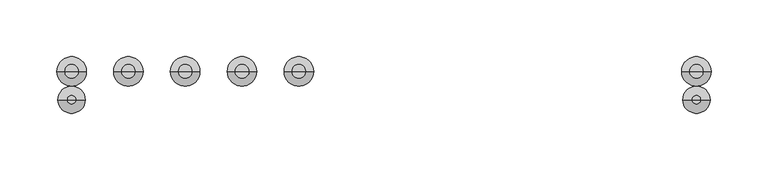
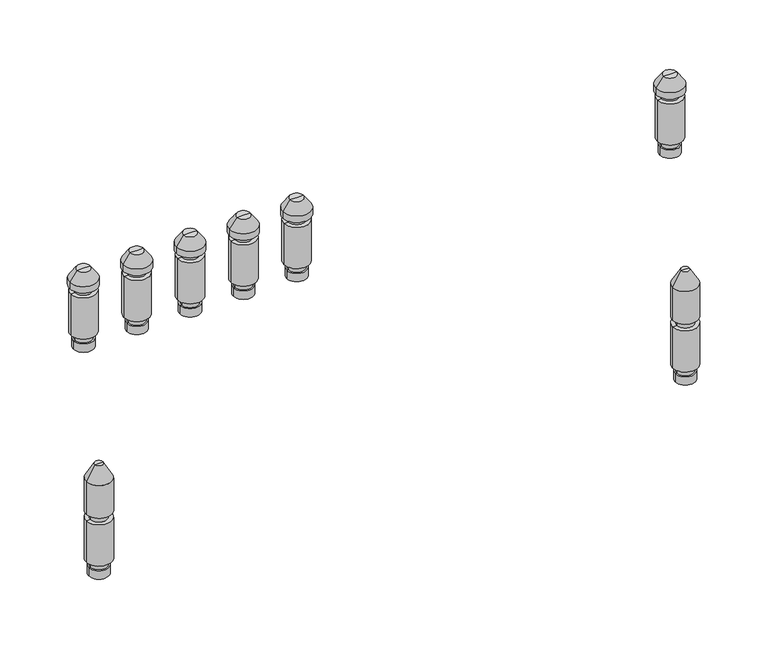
"""IFC4 building model written with IfcOpenShell, lengths in millimetres: valve geometry, PL CZ_Manifold_FT-VA : 13 circuits."""

from ifc_helpers import new_model, si_unit, frame, origin, place, context, project, spatial, polyline, circle_curve, source, transform, mapped, element, save
from ifc_brep_helpers import plane_surface, cylinder_surface, revolved_surface, advanced_brep


def valve_afcc5f03(model_context):
    return source(origin(), model_context, "Body", "AdvancedBrep", [
        advanced_brep(
        [(278.5, 25.0, 174.88733), (297.5, 25.0, 174.88733), (288.0, 25.0, 174.88733), (278.5, 25.0, 182.9630354), (297.5, 25.0, 182.9630354), (280.0, 25.0, 182.9630354), (296.0, 25.0, 182.9630354), (280.0, 25.0, 189.669747), (296.0, 25.0, 189.669747), (276.0, 25.0, 189.669747), (300.0, 25.0, 189.669747), (276.0, 25.0, 230.330253), (300.0, 25.0, 230.330253), (280.0, 25.0, 230.330253), (296.0, 25.0, 230.330253), (280.0, 25.0, 236.0474786), (296.0, 25.0, 236.0474786), (275.0, 25.0, 236.0474786), (301.0, 25.0, 236.0474786), (275.0, 25.0, 242.337955), (301.0, 25.0, 242.337955), (281.6551779, 25.0, 251.842534), (294.3448221, 25.0, 251.842534), (288.0, 25.0, 251.842534)],
        [
            (0, 1, circle_curve(frame((288.0, 25.0, 174.88733), z_axis=(0.0, 0.0, -1.0), x_axis=(1.0, 0.0, 0.0)), 9.5)),
            (1, 2),
            (2, 0),
            (1, 0, circle_curve(frame((288.0, 25.0, 174.88733), z_axis=(0.0, 0.0, -1.0), x_axis=(1.0, 0.0, 0.0)), 9.5)),
            (3, 4, circle_curve(frame((288.0, 25.0, 182.9630354), z_axis=(0.0, 0.0, -1.0), x_axis=(1.0, 0.0, 0.0)), 9.5)),
            (4, 1),
            (0, 3),
            (4, 3, circle_curve(frame((288.0, 25.0, 182.9630354), z_axis=(0.0, 0.0, -1.0), x_axis=(1.0, 0.0, 0.0)), 9.5)),
            (5, 6, circle_curve(frame((288.0, 25.0, 182.9630354), z_axis=(0.0, 0.0, -1.0), x_axis=(1.0, 0.0, 0.0)), 8.0)),
            (6, 4),
            (3, 5),
            (6, 5, circle_curve(frame((288.0, 25.0, 182.9630354), z_axis=(0.0, 0.0, -1.0), x_axis=(1.0, 0.0, 0.0)), 8.0)),
            (7, 8, circle_curve(frame((288.0, 25.0, 189.669747), z_axis=(0.0, 0.0, -1.0), x_axis=(1.0, 0.0, 0.0)), 8.0)),
            (8, 6),
            (5, 7),
            (8, 7, circle_curve(frame((288.0, 25.0, 189.669747), z_axis=(0.0, 0.0, -1.0), x_axis=(1.0, 0.0, 0.0)), 8.0)),
            (9, 10, circle_curve(frame((288.0, 25.0, 189.669747), z_axis=(0.0, 0.0, -1.0), x_axis=(1.0, 0.0, 0.0)), 12.0)),
            (10, 8),
            (7, 9),
            (10, 9, circle_curve(frame((288.0, 25.0, 189.669747), z_axis=(0.0, 0.0, -1.0), x_axis=(1.0, 0.0, 0.0)), 12.0)),
            (11, 12, circle_curve(frame((288.0, 25.0, 230.330253), z_axis=(0.0, 0.0, -1.0), x_axis=(1.0, 0.0, 0.0)), 12.0)),
            (12, 10),
            (9, 11),
            (12, 11, circle_curve(frame((288.0, 25.0, 230.330253), z_axis=(0.0, 0.0, -1.0), x_axis=(1.0, 0.0, 0.0)), 12.0)),
            (13, 14, circle_curve(frame((288.0, 25.0, 230.330253), z_axis=(0.0, 0.0, -1.0), x_axis=(1.0, 0.0, 0.0)), 8.0)),
            (14, 12),
            (11, 13),
            (14, 13, circle_curve(frame((288.0, 25.0, 230.330253), z_axis=(0.0, 0.0, -1.0), x_axis=(1.0, 0.0, 0.0)), 8.0)),
            (15, 16, circle_curve(frame((288.0, 25.0, 236.0474786), z_axis=(0.0, 0.0, -1.0), x_axis=(1.0, 0.0, 0.0)), 8.0)),
            (16, 14),
            (13, 15),
            (16, 15, circle_curve(frame((288.0, 25.0, 236.0474786), z_axis=(0.0, 0.0, -1.0), x_axis=(1.0, 0.0, 0.0)), 8.0)),
            (17, 18, circle_curve(frame((288.0, 25.0, 236.0474786), z_axis=(0.0, 0.0, -1.0), x_axis=(1.0, 0.0, 0.0)), 13.0)),
            (18, 16),
            (15, 17),
            (18, 17, circle_curve(frame((288.0, 25.0, 236.0474786), z_axis=(0.0, 0.0, -1.0), x_axis=(1.0, 0.0, 0.0)), 13.0)),
            (19, 20, circle_curve(frame((288.0, 25.0, 242.337955), z_axis=(0.0, 0.0, -1.0), x_axis=(1.0, 0.0, 0.0)), 13.0)),
            (20, 18),
            (17, 19),
            (20, 19, circle_curve(frame((288.0, 25.0, 242.337955), z_axis=(0.0, 0.0, -1.0), x_axis=(1.0, 0.0, 0.0)), 13.0)),
            (21, 22, circle_curve(frame((288.0, 25.0, 251.842534), z_axis=(0.0, 0.0, -1.0), x_axis=(1.0, 0.0, 0.0)), 6.3448221)),
            (22, 20),
            (19, 21),
            (22, 21, circle_curve(frame((288.0, 25.0, 251.842534), z_axis=(0.0, 0.0, -1.0), x_axis=(1.0, 0.0, 0.0)), 6.3448221)),
            (23, 22),
            (21, 23),
        ],
        [
            plane_surface(frame((288.0, 25.0, 174.88733), z_axis=(0.0, 0.0, -1.0), x_axis=(1.0, 0.0, 0.0))),
            cylinder_surface(frame((288.0, 25.0, 247.7026565), z_axis=(0.0, 0.0, 1.0), x_axis=(1.0, 0.0, 0.0)), 9.5),
            plane_surface(frame((288.0, 25.0, 182.9630354), z_axis=(0.0, 0.0, 1.0), x_axis=(1.0, 0.0, 0.0))),
            cylinder_surface(frame((288.0, 25.0, 247.7026565), z_axis=(0.0, 0.0, 1.0), x_axis=(1.0, 0.0, 0.0)), 8.0),
            plane_surface(frame((288.0, 25.0, 189.669747), z_axis=(0.0, 0.0, -1.0), x_axis=(1.0, 0.0, 0.0))),
            cylinder_surface(frame((288.0, 25.0, 247.7026565), z_axis=(0.0, 0.0, 1.0), x_axis=(1.0, 0.0, 0.0)), 12.0),
            plane_surface(frame((288.0, 25.0, 230.330253), z_axis=(0.0, 0.0, 1.0), x_axis=(1.0, 0.0, 0.0))),
            plane_surface(frame((288.0, 25.0, 236.0474786), z_axis=(0.0, 0.0, -1.0), x_axis=(1.0, 0.0, 0.0))),
            cylinder_surface(frame((288.0, 25.0, 247.7026565), z_axis=(0.0, 0.0, 1.0), x_axis=(1.0, 0.0, 0.0)), 13.0),
            revolved_surface(polyline([(301.0, 25.0, 242.337955), (294.3448221, 25.0, 251.842534)]), (288.0, 25.0, 247.7026565), (0.0, 0.0, 1.0)),
            plane_surface(frame((288.0, 25.0, 251.842534), z_axis=(0.0, 0.0, 1.0), x_axis=(1.0, 0.0, 0.0))),
        ],
        [
            (0, [[1, 2, 3]]),
            (0, [[4, -3, -2]]),
            (1, [[5, 6, -1, 7]]),
            (1, [[8, -7, -4, -6]]),
            (2, [[9, 10, -5, 11]]),
            (2, [[12, -11, -8, -10]]),
            (3, [[13, 14, -9, 15]]),
            (3, [[16, -15, -12, -14]]),
            (4, [[17, 18, -13, 19]]),
            (4, [[20, -19, -16, -18]]),
            (5, [[21, 22, -17, 23]]),
            (5, [[24, -23, -20, -22]]),
            (6, [[25, 26, -21, 27]]),
            (6, [[28, -27, -24, -26]]),
            (3, [[29, 30, -25, 31]]),
            (3, [[32, -31, -28, -30]]),
            (7, [[33, 34, -29, 35]]),
            (7, [[36, -35, -32, -34]]),
            (8, [[37, 38, -33, 39]]),
            (8, [[40, -39, -36, -38]]),
            (9, [[41, 42, -37, 43]]),
            (9, [[44, -43, -40, -42]]),
            (10, [[45, -41, 46]]),
            (10, [[-46, -44, -45]]),
        ],
    ),
        advanced_brep(
        [(228.5, 25.0, 174.88733), (247.5, 25.0, 174.88733), (238.0, 25.0, 174.88733), (228.5, 25.0, 182.9630354), (247.5, 25.0, 182.9630354), (230.0, 25.0, 182.9630354), (246.0, 25.0, 182.9630354), (230.0, 25.0, 189.669747), (246.0, 25.0, 189.669747), (226.0, 25.0, 189.669747), (250.0, 25.0, 189.669747), (226.0, 25.0, 230.330253), (250.0, 25.0, 230.330253), (230.0, 25.0, 230.330253), (246.0, 25.0, 230.330253), (230.0, 25.0, 236.0474786), (246.0, 25.0, 236.0474786), (225.0, 25.0, 236.0474786), (251.0, 25.0, 236.0474786), (225.0, 25.0, 242.337955), (251.0, 25.0, 242.337955), (231.6551779, 25.0, 251.842534), (244.3448221, 25.0, 251.842534), (238.0, 25.0, 251.842534)],
        [
            (0, 1, circle_curve(frame((238.0, 25.0, 174.88733), z_axis=(0.0, 0.0, -1.0), x_axis=(1.0, 0.0, 0.0)), 9.5)),
            (1, 2),
            (2, 0),
            (1, 0, circle_curve(frame((238.0, 25.0, 174.88733), z_axis=(0.0, 0.0, -1.0), x_axis=(1.0, 0.0, 0.0)), 9.5)),
            (3, 4, circle_curve(frame((238.0, 25.0, 182.9630354), z_axis=(0.0, 0.0, -1.0), x_axis=(1.0, 0.0, 0.0)), 9.5)),
            (4, 1),
            (0, 3),
            (4, 3, circle_curve(frame((238.0, 25.0, 182.9630354), z_axis=(0.0, 0.0, -1.0), x_axis=(1.0, 0.0, 0.0)), 9.5)),
            (5, 6, circle_curve(frame((238.0, 25.0, 182.9630354), z_axis=(0.0, 0.0, -1.0), x_axis=(1.0, 0.0, 0.0)), 8.0)),
            (6, 4),
            (3, 5),
            (6, 5, circle_curve(frame((238.0, 25.0, 182.9630354), z_axis=(0.0, 0.0, -1.0), x_axis=(1.0, 0.0, 0.0)), 8.0)),
            (7, 8, circle_curve(frame((238.0, 25.0, 189.669747), z_axis=(0.0, 0.0, -1.0), x_axis=(1.0, 0.0, 0.0)), 8.0)),
            (8, 6),
            (5, 7),
            (8, 7, circle_curve(frame((238.0, 25.0, 189.669747), z_axis=(0.0, 0.0, -1.0), x_axis=(1.0, 0.0, 0.0)), 8.0)),
            (9, 10, circle_curve(frame((238.0, 25.0, 189.669747), z_axis=(0.0, 0.0, -1.0), x_axis=(1.0, 0.0, 0.0)), 12.0)),
            (10, 8),
            (7, 9),
            (10, 9, circle_curve(frame((238.0, 25.0, 189.669747), z_axis=(0.0, 0.0, -1.0), x_axis=(1.0, 0.0, 0.0)), 12.0)),
            (11, 12, circle_curve(frame((238.0, 25.0, 230.330253), z_axis=(0.0, 0.0, -1.0), x_axis=(1.0, 0.0, 0.0)), 12.0)),
            (12, 10),
            (9, 11),
            (12, 11, circle_curve(frame((238.0, 25.0, 230.330253), z_axis=(0.0, 0.0, -1.0), x_axis=(1.0, 0.0, 0.0)), 12.0)),
            (13, 14, circle_curve(frame((238.0, 25.0, 230.330253), z_axis=(0.0, 0.0, -1.0), x_axis=(1.0, 0.0, 0.0)), 8.0)),
            (14, 12),
            (11, 13),
            (14, 13, circle_curve(frame((238.0, 25.0, 230.330253), z_axis=(0.0, 0.0, -1.0), x_axis=(1.0, 0.0, 0.0)), 8.0)),
            (15, 16, circle_curve(frame((238.0, 25.0, 236.0474786), z_axis=(0.0, 0.0, -1.0), x_axis=(1.0, 0.0, 0.0)), 8.0)),
            (16, 14),
            (13, 15),
            (16, 15, circle_curve(frame((238.0, 25.0, 236.0474786), z_axis=(0.0, 0.0, -1.0), x_axis=(1.0, 0.0, 0.0)), 8.0)),
            (17, 18, circle_curve(frame((238.0, 25.0, 236.0474786), z_axis=(0.0, 0.0, -1.0), x_axis=(1.0, 0.0, 0.0)), 13.0)),
            (18, 16),
            (15, 17),
            (18, 17, circle_curve(frame((238.0, 25.0, 236.0474786), z_axis=(0.0, 0.0, -1.0), x_axis=(1.0, 0.0, 0.0)), 13.0)),
            (19, 20, circle_curve(frame((238.0, 25.0, 242.337955), z_axis=(0.0, 0.0, -1.0), x_axis=(1.0, 0.0, 0.0)), 13.0)),
            (20, 18),
            (17, 19),
            (20, 19, circle_curve(frame((238.0, 25.0, 242.337955), z_axis=(0.0, 0.0, -1.0), x_axis=(1.0, 0.0, 0.0)), 13.0)),
            (21, 22, circle_curve(frame((238.0, 25.0, 251.842534), z_axis=(0.0, 0.0, -1.0), x_axis=(1.0, 0.0, 0.0)), 6.3448221)),
            (22, 20),
            (19, 21),
            (22, 21, circle_curve(frame((238.0, 25.0, 251.842534), z_axis=(0.0, 0.0, -1.0), x_axis=(1.0, 0.0, 0.0)), 6.3448221)),
            (23, 22),
            (21, 23),
        ],
        [
            plane_surface(frame((238.0, 25.0, 174.88733), z_axis=(0.0, 0.0, -1.0), x_axis=(1.0, 0.0, 0.0))),
            cylinder_surface(frame((238.0, 25.0, 247.7026565), z_axis=(0.0, 0.0, 1.0), x_axis=(1.0, 0.0, 0.0)), 9.5),
            plane_surface(frame((238.0, 25.0, 182.9630354), z_axis=(0.0, 0.0, 1.0), x_axis=(1.0, 0.0, 0.0))),
            cylinder_surface(frame((238.0, 25.0, 247.7026565), z_axis=(0.0, 0.0, 1.0), x_axis=(1.0, 0.0, 0.0)), 8.0),
            plane_surface(frame((238.0, 25.0, 189.669747), z_axis=(0.0, 0.0, -1.0), x_axis=(1.0, 0.0, 0.0))),
            cylinder_surface(frame((238.0, 25.0, 247.7026565), z_axis=(0.0, 0.0, 1.0), x_axis=(1.0, 0.0, 0.0)), 12.0),
            plane_surface(frame((238.0, 25.0, 230.330253), z_axis=(0.0, 0.0, 1.0), x_axis=(1.0, 0.0, 0.0))),
            plane_surface(frame((238.0, 25.0, 236.0474786), z_axis=(0.0, 0.0, -1.0), x_axis=(1.0, 0.0, 0.0))),
            cylinder_surface(frame((238.0, 25.0, 247.7026565), z_axis=(0.0, 0.0, 1.0), x_axis=(1.0, 0.0, 0.0)), 13.0),
            revolved_surface(polyline([(251.0, 25.0, 242.337955), (244.3448221, 25.0, 251.842534)]), (238.0, 25.0, 247.7026565), (0.0, 0.0, 1.0)),
            plane_surface(frame((238.0, 25.0, 251.842534), z_axis=(0.0, 0.0, 1.0), x_axis=(1.0, 0.0, 0.0))),
        ],
        [
            (0, [[1, 2, 3]]),
            (0, [[4, -3, -2]]),
            (1, [[5, 6, -1, 7]]),
            (1, [[8, -7, -4, -6]]),
            (2, [[9, 10, -5, 11]]),
            (2, [[12, -11, -8, -10]]),
            (3, [[13, 14, -9, 15]]),
            (3, [[16, -15, -12, -14]]),
            (4, [[17, 18, -13, 19]]),
            (4, [[20, -19, -16, -18]]),
            (5, [[21, 22, -17, 23]]),
            (5, [[24, -23, -20, -22]]),
            (6, [[25, 26, -21, 27]]),
            (6, [[28, -27, -24, -26]]),
            (3, [[29, 30, -25, 31]]),
            (3, [[32, -31, -28, -30]]),
            (7, [[33, 34, -29, 35]]),
            (7, [[36, -35, -32, -34]]),
            (8, [[37, 38, -33, 39]]),
            (8, [[40, -39, -36, -38]]),
            (9, [[41, 42, -37, 43]]),
            (9, [[44, -43, -40, -42]]),
            (10, [[45, -41, 46]]),
            (10, [[-46, -44, -45]]),
        ],
    ),
        advanced_brep(
        [(178.5, 25.0, 174.88733), (197.5, 25.0, 174.88733), (188.0, 25.0, 174.88733), (178.5, 25.0, 182.9630354), (197.5, 25.0, 182.9630354), (180.0, 25.0, 182.9630354), (196.0, 25.0, 182.9630354), (180.0, 25.0, 189.669747), (196.0, 25.0, 189.669747), (176.0, 25.0, 189.669747), (200.0, 25.0, 189.669747), (176.0, 25.0, 230.330253), (200.0, 25.0, 230.330253), (180.0, 25.0, 230.330253), (196.0, 25.0, 230.330253), (180.0, 25.0, 236.0474786), (196.0, 25.0, 236.0474786), (175.0, 25.0, 236.0474786), (201.0, 25.0, 236.0474786), (175.0, 25.0, 242.337955), (201.0, 25.0, 242.337955), (181.6551779, 25.0, 251.842534), (194.3448221, 25.0, 251.842534), (188.0, 25.0, 251.842534)],
        [
            (0, 1, circle_curve(frame((188.0, 25.0, 174.88733), z_axis=(0.0, 0.0, -1.0), x_axis=(1.0, 0.0, 0.0)), 9.5)),
            (1, 2),
            (2, 0),
            (1, 0, circle_curve(frame((188.0, 25.0, 174.88733), z_axis=(0.0, 0.0, -1.0), x_axis=(1.0, 0.0, 0.0)), 9.5)),
            (3, 4, circle_curve(frame((188.0, 25.0, 182.9630354), z_axis=(0.0, 0.0, -1.0), x_axis=(1.0, 0.0, 0.0)), 9.5)),
            (4, 1),
            (0, 3),
            (4, 3, circle_curve(frame((188.0, 25.0, 182.9630354), z_axis=(0.0, 0.0, -1.0), x_axis=(1.0, 0.0, 0.0)), 9.5)),
            (5, 6, circle_curve(frame((188.0, 25.0, 182.9630354), z_axis=(0.0, 0.0, -1.0), x_axis=(1.0, 0.0, 0.0)), 8.0)),
            (6, 4),
            (3, 5),
            (6, 5, circle_curve(frame((188.0, 25.0, 182.9630354), z_axis=(0.0, 0.0, -1.0), x_axis=(1.0, 0.0, 0.0)), 8.0)),
            (7, 8, circle_curve(frame((188.0, 25.0, 189.669747), z_axis=(0.0, 0.0, -1.0), x_axis=(1.0, 0.0, 0.0)), 8.0)),
            (8, 6),
            (5, 7),
            (8, 7, circle_curve(frame((188.0, 25.0, 189.669747), z_axis=(0.0, 0.0, -1.0), x_axis=(1.0, 0.0, 0.0)), 8.0)),
            (9, 10, circle_curve(frame((188.0, 25.0, 189.669747), z_axis=(0.0, 0.0, -1.0), x_axis=(1.0, 0.0, 0.0)), 12.0)),
            (10, 8),
            (7, 9),
            (10, 9, circle_curve(frame((188.0, 25.0, 189.669747), z_axis=(0.0, 0.0, -1.0), x_axis=(1.0, 0.0, 0.0)), 12.0)),
            (11, 12, circle_curve(frame((188.0, 25.0, 230.330253), z_axis=(0.0, 0.0, -1.0), x_axis=(1.0, 0.0, 0.0)), 12.0)),
            (12, 10),
            (9, 11),
            (12, 11, circle_curve(frame((188.0, 25.0, 230.330253), z_axis=(0.0, 0.0, -1.0), x_axis=(1.0, 0.0, 0.0)), 12.0)),
            (13, 14, circle_curve(frame((188.0, 25.0, 230.330253), z_axis=(0.0, 0.0, -1.0), x_axis=(1.0, 0.0, 0.0)), 8.0)),
            (14, 12),
            (11, 13),
            (14, 13, circle_curve(frame((188.0, 25.0, 230.330253), z_axis=(0.0, 0.0, -1.0), x_axis=(1.0, 0.0, 0.0)), 8.0)),
            (15, 16, circle_curve(frame((188.0, 25.0, 236.0474786), z_axis=(0.0, 0.0, -1.0), x_axis=(1.0, 0.0, 0.0)), 8.0)),
            (16, 14),
            (13, 15),
            (16, 15, circle_curve(frame((188.0, 25.0, 236.0474786), z_axis=(0.0, 0.0, -1.0), x_axis=(1.0, 0.0, 0.0)), 8.0)),
            (17, 18, circle_curve(frame((188.0, 25.0, 236.0474786), z_axis=(0.0, 0.0, -1.0), x_axis=(1.0, 0.0, 0.0)), 13.0)),
            (18, 16),
            (15, 17),
            (18, 17, circle_curve(frame((188.0, 25.0, 236.0474786), z_axis=(0.0, 0.0, -1.0), x_axis=(1.0, 0.0, 0.0)), 13.0)),
            (19, 20, circle_curve(frame((188.0, 25.0, 242.337955), z_axis=(0.0, 0.0, -1.0), x_axis=(1.0, 0.0, 0.0)), 13.0)),
            (20, 18),
            (17, 19),
            (20, 19, circle_curve(frame((188.0, 25.0, 242.337955), z_axis=(0.0, 0.0, -1.0), x_axis=(1.0, 0.0, 0.0)), 13.0)),
            (21, 22, circle_curve(frame((188.0, 25.0, 251.842534), z_axis=(0.0, 0.0, -1.0), x_axis=(1.0, 0.0, 0.0)), 6.3448221)),
            (22, 20),
            (19, 21),
            (22, 21, circle_curve(frame((188.0, 25.0, 251.842534), z_axis=(0.0, 0.0, -1.0), x_axis=(1.0, 0.0, 0.0)), 6.3448221)),
            (23, 22),
            (21, 23),
        ],
        [
            plane_surface(frame((188.0, 25.0, 174.88733), z_axis=(0.0, 0.0, -1.0), x_axis=(1.0, 0.0, 0.0))),
            cylinder_surface(frame((188.0, 25.0, 247.7026565), z_axis=(0.0, 0.0, 1.0), x_axis=(1.0, 0.0, 0.0)), 9.5),
            plane_surface(frame((188.0, 25.0, 182.9630354), z_axis=(0.0, 0.0, 1.0), x_axis=(1.0, 0.0, 0.0))),
            cylinder_surface(frame((188.0, 25.0, 247.7026565), z_axis=(0.0, 0.0, 1.0), x_axis=(1.0, 0.0, 0.0)), 8.0),
            plane_surface(frame((188.0, 25.0, 189.669747), z_axis=(0.0, 0.0, -1.0), x_axis=(1.0, 0.0, 0.0))),
            cylinder_surface(frame((188.0, 25.0, 247.7026565), z_axis=(0.0, 0.0, 1.0), x_axis=(1.0, 0.0, 0.0)), 12.0),
            plane_surface(frame((188.0, 25.0, 230.330253), z_axis=(0.0, 0.0, 1.0), x_axis=(1.0, 0.0, 0.0))),
            plane_surface(frame((188.0, 25.0, 236.0474786), z_axis=(0.0, 0.0, -1.0), x_axis=(1.0, 0.0, 0.0))),
            cylinder_surface(frame((188.0, 25.0, 247.7026565), z_axis=(0.0, 0.0, 1.0), x_axis=(1.0, 0.0, 0.0)), 13.0),
            revolved_surface(polyline([(201.0, 25.0, 242.337955), (194.3448221, 25.0, 251.842534)]), (188.0, 25.0, 247.7026565), (0.0, 0.0, 1.0)),
            plane_surface(frame((188.0, 25.0, 251.842534), z_axis=(0.0, 0.0, 1.0), x_axis=(1.0, 0.0, 0.0))),
        ],
        [
            (0, [[1, 2, 3]]),
            (0, [[4, -3, -2]]),
            (1, [[5, 6, -1, 7]]),
            (1, [[8, -7, -4, -6]]),
            (2, [[9, 10, -5, 11]]),
            (2, [[12, -11, -8, -10]]),
            (3, [[13, 14, -9, 15]]),
            (3, [[16, -15, -12, -14]]),
            (4, [[17, 18, -13, 19]]),
            (4, [[20, -19, -16, -18]]),
            (5, [[21, 22, -17, 23]]),
            (5, [[24, -23, -20, -22]]),
            (6, [[25, 26, -21, 27]]),
            (6, [[28, -27, -24, -26]]),
            (3, [[29, 30, -25, 31]]),
            (3, [[32, -31, -28, -30]]),
            (7, [[33, 34, -29, 35]]),
            (7, [[36, -35, -32, -34]]),
            (8, [[37, 38, -33, 39]]),
            (8, [[40, -39, -36, -38]]),
            (9, [[41, 42, -37, 43]]),
            (9, [[44, -43, -40, -42]]),
            (10, [[45, -41, 46]]),
            (10, [[-46, -44, -45]]),
        ],
    ),
        advanced_brep(
        [(128.5, 25.0, 174.88733), (147.5, 25.0, 174.88733), (138.0, 25.0, 174.88733), (128.5, 25.0, 182.9630354), (147.5, 25.0, 182.9630354), (130.0, 25.0, 182.9630354), (146.0, 25.0, 182.9630354), (130.0, 25.0, 189.669747), (146.0, 25.0, 189.669747), (126.0, 25.0, 189.669747), (150.0, 25.0, 189.669747), (126.0, 25.0, 230.330253), (150.0, 25.0, 230.330253), (130.0, 25.0, 230.330253), (146.0, 25.0, 230.330253), (130.0, 25.0, 236.0474786), (146.0, 25.0, 236.0474786), (125.0, 25.0, 236.0474786), (151.0, 25.0, 236.0474786), (125.0, 25.0, 242.337955), (151.0, 25.0, 242.337955), (131.6551779, 25.0, 251.842534), (144.3448221, 25.0, 251.842534), (138.0, 25.0, 251.842534)],
        [
            (0, 1, circle_curve(frame((138.0, 25.0, 174.88733), z_axis=(0.0, 0.0, -1.0), x_axis=(1.0, 0.0, 0.0)), 9.5)),
            (1, 2),
            (2, 0),
            (1, 0, circle_curve(frame((138.0, 25.0, 174.88733), z_axis=(0.0, 0.0, -1.0), x_axis=(1.0, 0.0, 0.0)), 9.5)),
            (3, 4, circle_curve(frame((138.0, 25.0, 182.9630354), z_axis=(0.0, 0.0, -1.0), x_axis=(1.0, 0.0, 0.0)), 9.5)),
            (4, 1),
            (0, 3),
            (4, 3, circle_curve(frame((138.0, 25.0, 182.9630354), z_axis=(0.0, 0.0, -1.0), x_axis=(1.0, 0.0, 0.0)), 9.5)),
            (5, 6, circle_curve(frame((138.0, 25.0, 182.9630354), z_axis=(0.0, 0.0, -1.0), x_axis=(1.0, 0.0, 0.0)), 8.0)),
            (6, 4),
            (3, 5),
            (6, 5, circle_curve(frame((138.0, 25.0, 182.9630354), z_axis=(0.0, 0.0, -1.0), x_axis=(1.0, 0.0, 0.0)), 8.0)),
            (7, 8, circle_curve(frame((138.0, 25.0, 189.669747), z_axis=(0.0, 0.0, -1.0), x_axis=(1.0, 0.0, 0.0)), 8.0)),
            (8, 6),
            (5, 7),
            (8, 7, circle_curve(frame((138.0, 25.0, 189.669747), z_axis=(0.0, 0.0, -1.0), x_axis=(1.0, 0.0, 0.0)), 8.0)),
            (9, 10, circle_curve(frame((138.0, 25.0, 189.669747), z_axis=(0.0, 0.0, -1.0), x_axis=(1.0, 0.0, 0.0)), 12.0)),
            (10, 8),
            (7, 9),
            (10, 9, circle_curve(frame((138.0, 25.0, 189.669747), z_axis=(0.0, 0.0, -1.0), x_axis=(1.0, 0.0, 0.0)), 12.0)),
            (11, 12, circle_curve(frame((138.0, 25.0, 230.330253), z_axis=(0.0, 0.0, -1.0), x_axis=(1.0, 0.0, 0.0)), 12.0)),
            (12, 10),
            (9, 11),
            (12, 11, circle_curve(frame((138.0, 25.0, 230.330253), z_axis=(0.0, 0.0, -1.0), x_axis=(1.0, 0.0, 0.0)), 12.0)),
            (13, 14, circle_curve(frame((138.0, 25.0, 230.330253), z_axis=(0.0, 0.0, -1.0), x_axis=(1.0, 0.0, 0.0)), 8.0)),
            (14, 12),
            (11, 13),
            (14, 13, circle_curve(frame((138.0, 25.0, 230.330253), z_axis=(0.0, 0.0, -1.0), x_axis=(1.0, 0.0, 0.0)), 8.0)),
            (15, 16, circle_curve(frame((138.0, 25.0, 236.0474786), z_axis=(0.0, 0.0, -1.0), x_axis=(1.0, 0.0, 0.0)), 8.0)),
            (16, 14),
            (13, 15),
            (16, 15, circle_curve(frame((138.0, 25.0, 236.0474786), z_axis=(0.0, 0.0, -1.0), x_axis=(1.0, 0.0, 0.0)), 8.0)),
            (17, 18, circle_curve(frame((138.0, 25.0, 236.0474786), z_axis=(0.0, 0.0, -1.0), x_axis=(1.0, 0.0, 0.0)), 13.0)),
            (18, 16),
            (15, 17),
            (18, 17, circle_curve(frame((138.0, 25.0, 236.0474786), z_axis=(0.0, 0.0, -1.0), x_axis=(1.0, 0.0, 0.0)), 13.0)),
            (19, 20, circle_curve(frame((138.0, 25.0, 242.337955), z_axis=(0.0, 0.0, -1.0), x_axis=(1.0, 0.0, 0.0)), 13.0)),
            (20, 18),
            (17, 19),
            (20, 19, circle_curve(frame((138.0, 25.0, 242.337955), z_axis=(0.0, 0.0, -1.0), x_axis=(1.0, 0.0, 0.0)), 13.0)),
            (21, 22, circle_curve(frame((138.0, 25.0, 251.842534), z_axis=(0.0, 0.0, -1.0), x_axis=(1.0, 0.0, 0.0)), 6.3448221)),
            (22, 20),
            (19, 21),
            (22, 21, circle_curve(frame((138.0, 25.0, 251.842534), z_axis=(0.0, 0.0, -1.0), x_axis=(1.0, 0.0, 0.0)), 6.3448221)),
            (23, 22),
            (21, 23),
        ],
        [
            plane_surface(frame((138.0, 25.0, 174.88733), z_axis=(0.0, 0.0, -1.0), x_axis=(1.0, 0.0, 0.0))),
            cylinder_surface(frame((138.0, 25.0, 247.7026565), z_axis=(0.0, 0.0, 1.0), x_axis=(1.0, 0.0, 0.0)), 9.5),
            plane_surface(frame((138.0, 25.0, 182.9630354), z_axis=(0.0, 0.0, 1.0), x_axis=(1.0, 0.0, 0.0))),
            cylinder_surface(frame((138.0, 25.0, 247.7026565), z_axis=(0.0, 0.0, 1.0), x_axis=(1.0, 0.0, 0.0)), 8.0),
            plane_surface(frame((138.0, 25.0, 189.669747), z_axis=(0.0, 0.0, -1.0), x_axis=(1.0, 0.0, 0.0))),
            cylinder_surface(frame((138.0, 25.0, 247.7026565), z_axis=(0.0, 0.0, 1.0), x_axis=(1.0, 0.0, 0.0)), 12.0),
            plane_surface(frame((138.0, 25.0, 230.330253), z_axis=(0.0, 0.0, 1.0), x_axis=(1.0, 0.0, 0.0))),
            plane_surface(frame((138.0, 25.0, 236.0474786), z_axis=(0.0, 0.0, -1.0), x_axis=(1.0, 0.0, 0.0))),
            cylinder_surface(frame((138.0, 25.0, 247.7026565), z_axis=(0.0, 0.0, 1.0), x_axis=(1.0, 0.0, 0.0)), 13.0),
            revolved_surface(polyline([(151.0, 25.0, 242.337955), (144.3448221, 25.0, 251.842534)]), (138.0, 25.0, 247.7026565), (0.0, 0.0, 1.0)),
            plane_surface(frame((138.0, 25.0, 251.842534), z_axis=(0.0, 0.0, 1.0), x_axis=(1.0, 0.0, 0.0))),
        ],
        [
            (0, [[1, 2, 3]]),
            (0, [[4, -3, -2]]),
            (1, [[5, 6, -1, 7]]),
            (1, [[8, -7, -4, -6]]),
            (2, [[9, 10, -5, 11]]),
            (2, [[12, -11, -8, -10]]),
            (3, [[13, 14, -9, 15]]),
            (3, [[16, -15, -12, -14]]),
            (4, [[17, 18, -13, 19]]),
            (4, [[20, -19, -16, -18]]),
            (5, [[21, 22, -17, 23]]),
            (5, [[24, -23, -20, -22]]),
            (6, [[25, 26, -21, 27]]),
            (6, [[28, -27, -24, -26]]),
            (3, [[29, 30, -25, 31]]),
            (3, [[32, -31, -28, -30]]),
            (7, [[33, 34, -29, 35]]),
            (7, [[36, -35, -32, -34]]),
            (8, [[37, 38, -33, 39]]),
            (8, [[40, -39, -36, -38]]),
            (9, [[41, 42, -37, 43]]),
            (9, [[44, -43, -40, -42]]),
            (10, [[45, -41, 46]]),
            (10, [[-46, -44, -45]]),
        ],
    ),
        advanced_brep(
        [(78.5, 0.0, -35.11267), (97.5, 0.0, -35.11267), (88.0, 0.0, -35.11267), (78.5, 0.0, -27.0369646), (97.5, 0.0, -27.0369646), (80.0, 0.0, -27.0369646), (96.0, 0.0, -27.0369646), (80.0, 0.0, -20.330253), (96.0, 0.0, -20.330253), (76.0, 0.0, -20.330253), (100.0, 0.0, -20.330253), (76.0, 0.0, 20.330253), (100.0, 0.0, 20.330253), (80.0, 0.0, 20.330253), (96.0, 0.0, 20.330253), (80.0, 0.0, 27.0474786), (96.0, 0.0, 27.0474786), (76.0, 0.0, 27.0474786), (100.0, 0.0, 27.0474786), (76.0, 0.0, 59.4084325), (100.0, 0.0, 59.4084325), (84.0, 0.0, 73.264839), (92.0, 0.0, 73.264839), (88.0, 0.0, 73.264839)],
        [
            (0, 1, circle_curve(frame((88.0, 0.0, -35.11267), z_axis=(0.0, 0.0, -1.0), x_axis=(1.0, 0.0, 0.0)), 9.5)),
            (1, 2),
            (2, 0),
            (1, 0, circle_curve(frame((88.0, 0.0, -35.11267), z_axis=(0.0, 0.0, -1.0), x_axis=(1.0, 0.0, 0.0)), 9.5)),
            (3, 4, circle_curve(frame((88.0, 0.0, -27.0369646), z_axis=(0.0, 0.0, -1.0), x_axis=(1.0, 0.0, 0.0)), 9.5)),
            (4, 1),
            (0, 3),
            (4, 3, circle_curve(frame((88.0, 0.0, -27.0369646), z_axis=(0.0, 0.0, -1.0), x_axis=(1.0, 0.0, 0.0)), 9.5)),
            (5, 6, circle_curve(frame((88.0, 0.0, -27.0369646), z_axis=(0.0, 0.0, -1.0), x_axis=(1.0, 0.0, 0.0)), 8.0)),
            (6, 4),
            (3, 5),
            (6, 5, circle_curve(frame((88.0, 0.0, -27.0369646), z_axis=(0.0, 0.0, -1.0), x_axis=(1.0, 0.0, 0.0)), 8.0)),
            (7, 8, circle_curve(frame((88.0, 0.0, -20.330253), z_axis=(0.0, 0.0, -1.0), x_axis=(1.0, 0.0, 0.0)), 8.0)),
            (8, 6),
            (5, 7),
            (8, 7, circle_curve(frame((88.0, 0.0, -20.330253), z_axis=(0.0, 0.0, -1.0), x_axis=(1.0, 0.0, 0.0)), 8.0)),
            (9, 10, circle_curve(frame((88.0, 0.0, -20.330253), z_axis=(0.0, 0.0, -1.0), x_axis=(1.0, 0.0, 0.0)), 12.0)),
            (10, 8),
            (7, 9),
            (10, 9, circle_curve(frame((88.0, 0.0, -20.330253), z_axis=(0.0, 0.0, -1.0), x_axis=(1.0, 0.0, 0.0)), 12.0)),
            (11, 12, circle_curve(frame((88.0, 0.0, 20.330253), z_axis=(0.0, 0.0, -1.0), x_axis=(1.0, 0.0, 0.0)), 12.0)),
            (12, 10),
            (9, 11),
            (12, 11, circle_curve(frame((88.0, 0.0, 20.330253), z_axis=(0.0, 0.0, -1.0), x_axis=(1.0, 0.0, 0.0)), 12.0)),
            (13, 14, circle_curve(frame((88.0, 0.0, 20.330253), z_axis=(0.0, 0.0, -1.0), x_axis=(1.0, 0.0, 0.0)), 8.0)),
            (14, 12),
            (11, 13),
            (14, 13, circle_curve(frame((88.0, 0.0, 20.330253), z_axis=(0.0, 0.0, -1.0), x_axis=(1.0, 0.0, 0.0)), 8.0)),
            (15, 16, circle_curve(frame((88.0, 0.0, 27.0474786), z_axis=(0.0, 0.0, -1.0), x_axis=(1.0, 0.0, 0.0)), 8.0)),
            (16, 14),
            (13, 15),
            (16, 15, circle_curve(frame((88.0, 0.0, 27.0474786), z_axis=(0.0, 0.0, -1.0), x_axis=(1.0, 0.0, 0.0)), 8.0)),
            (17, 18, circle_curve(frame((88.0, 0.0, 27.0474786), z_axis=(0.0, 0.0, -1.0), x_axis=(1.0, 0.0, 0.0)), 12.0)),
            (18, 16),
            (15, 17),
            (18, 17, circle_curve(frame((88.0, 0.0, 27.0474786), z_axis=(0.0, 0.0, -1.0), x_axis=(1.0, 0.0, 0.0)), 12.0)),
            (19, 20, circle_curve(frame((88.0, 0.0, 59.4084325), z_axis=(0.0, 0.0, -1.0), x_axis=(1.0, 0.0, 0.0)), 12.0)),
            (20, 18),
            (17, 19),
            (20, 19, circle_curve(frame((88.0, 0.0, 59.4084325), z_axis=(0.0, 0.0, -1.0), x_axis=(1.0, 0.0, 0.0)), 12.0)),
            (21, 22, circle_curve(frame((88.0, 0.0, 73.264839), z_axis=(0.0, 0.0, -1.0), x_axis=(1.0, 0.0, 0.0)), 4.0)),
            (22, 20),
            (19, 21),
            (22, 21, circle_curve(frame((88.0, 0.0, 73.264839), z_axis=(0.0, 0.0, -1.0), x_axis=(1.0, 0.0, 0.0)), 4.0)),
            (23, 22),
            (21, 23),
        ],
        [
            plane_surface(frame((88.0, 0.0, -35.11267), z_axis=(0.0, 0.0, -1.0), x_axis=(1.0, 0.0, 0.0))),
            cylinder_surface(frame((88.0, 0.0, 58.264839), z_axis=(0.0, 0.0, 1.0), x_axis=(1.0, 0.0, 0.0)), 9.5),
            plane_surface(frame((88.0, 0.0, -27.0369646), z_axis=(0.0, 0.0, 1.0), x_axis=(1.0, 0.0, 0.0))),
            cylinder_surface(frame((88.0, 0.0, 58.264839), z_axis=(0.0, 0.0, 1.0), x_axis=(1.0, 0.0, 0.0)), 8.0),
            plane_surface(frame((88.0, 0.0, -20.330253), z_axis=(0.0, 0.0, -1.0), x_axis=(1.0, 0.0, 0.0))),
            cylinder_surface(frame((88.0, 0.0, 58.264839), z_axis=(0.0, 0.0, 1.0), x_axis=(1.0, 0.0, 0.0)), 12.0),
            plane_surface(frame((88.0, 0.0, 20.330253), z_axis=(0.0, 0.0, 1.0), x_axis=(1.0, 0.0, 0.0))),
            plane_surface(frame((88.0, 0.0, 27.0474786), z_axis=(0.0, 0.0, -1.0), x_axis=(1.0, 0.0, 0.0))),
            revolved_surface(polyline([(100.0, 0.0, 59.4084325), (92.0, 0.0, 73.264839)]), (88.0, 0.0, 58.264839), (0.0, 0.0, 1.0)),
            plane_surface(frame((88.0, 0.0, 73.264839), z_axis=(0.0, 0.0, 1.0), x_axis=(1.0, 0.0, 0.0))),
        ],
        [
            (0, [[1, 2, 3]]),
            (0, [[4, -3, -2]]),
            (1, [[5, 6, -1, 7]]),
            (1, [[8, -7, -4, -6]]),
            (2, [[9, 10, -5, 11]]),
            (2, [[12, -11, -8, -10]]),
            (3, [[13, 14, -9, 15]]),
            (3, [[16, -15, -12, -14]]),
            (4, [[17, 18, -13, 19]]),
            (4, [[20, -19, -16, -18]]),
            (5, [[21, 22, -17, 23]]),
            (5, [[24, -23, -20, -22]]),
            (6, [[25, 26, -21, 27]]),
            (6, [[28, -27, -24, -26]]),
            (3, [[29, 30, -25, 31]]),
            (3, [[32, -31, -28, -30]]),
            (7, [[33, 34, -29, 35]]),
            (7, [[36, -35, -32, -34]]),
            (5, [[37, 38, -33, 39]]),
            (5, [[40, -39, -36, -38]]),
            (8, [[41, 42, -37, 43]]),
            (8, [[44, -43, -40, -42]]),
            (9, [[45, -41, 46]]),
            (9, [[-46, -44, -45]]),
        ],
    ),
        advanced_brep(
        [(78.5, 25.0, 174.88733), (97.5, 25.0, 174.88733), (88.0, 25.0, 174.88733), (78.5, 25.0, 182.9630354), (97.5, 25.0, 182.9630354), (80.0, 25.0, 182.9630354), (96.0, 25.0, 182.9630354), (80.0, 25.0, 189.669747), (96.0, 25.0, 189.669747), (76.0, 25.0, 189.669747), (100.0, 25.0, 189.669747), (76.0, 25.0, 230.330253), (100.0, 25.0, 230.330253), (80.0, 25.0, 230.330253), (96.0, 25.0, 230.330253), (80.0, 25.0, 236.0474786), (96.0, 25.0, 236.0474786), (75.0, 25.0, 236.0474786), (101.0, 25.0, 236.0474786), (75.0, 25.0, 242.337955), (101.0, 25.0, 242.337955), (81.6551779, 25.0, 251.842534), (94.3448221, 25.0, 251.842534), (88.0, 25.0, 251.842534)],
        [
            (0, 1, circle_curve(frame((88.0, 25.0, 174.88733), z_axis=(0.0, 0.0, -1.0), x_axis=(1.0, 0.0, 0.0)), 9.5)),
            (1, 2),
            (2, 0),
            (1, 0, circle_curve(frame((88.0, 25.0, 174.88733), z_axis=(0.0, 0.0, -1.0), x_axis=(1.0, 0.0, 0.0)), 9.5)),
            (3, 4, circle_curve(frame((88.0, 25.0, 182.9630354), z_axis=(0.0, 0.0, -1.0), x_axis=(1.0, 0.0, 0.0)), 9.5)),
            (4, 1),
            (0, 3),
            (4, 3, circle_curve(frame((88.0, 25.0, 182.9630354), z_axis=(0.0, 0.0, -1.0), x_axis=(1.0, 0.0, 0.0)), 9.5)),
            (5, 6, circle_curve(frame((88.0, 25.0, 182.9630354), z_axis=(0.0, 0.0, -1.0), x_axis=(1.0, 0.0, 0.0)), 8.0)),
            (6, 4),
            (3, 5),
            (6, 5, circle_curve(frame((88.0, 25.0, 182.9630354), z_axis=(0.0, 0.0, -1.0), x_axis=(1.0, 0.0, 0.0)), 8.0)),
            (7, 8, circle_curve(frame((88.0, 25.0, 189.669747), z_axis=(0.0, 0.0, -1.0), x_axis=(1.0, 0.0, 0.0)), 8.0)),
            (8, 6),
            (5, 7),
            (8, 7, circle_curve(frame((88.0, 25.0, 189.669747), z_axis=(0.0, 0.0, -1.0), x_axis=(1.0, 0.0, 0.0)), 8.0)),
            (9, 10, circle_curve(frame((88.0, 25.0, 189.669747), z_axis=(0.0, 0.0, -1.0), x_axis=(1.0, 0.0, 0.0)), 12.0)),
            (10, 8),
            (7, 9),
            (10, 9, circle_curve(frame((88.0, 25.0, 189.669747), z_axis=(0.0, 0.0, -1.0), x_axis=(1.0, 0.0, 0.0)), 12.0)),
            (11, 12, circle_curve(frame((88.0, 25.0, 230.330253), z_axis=(0.0, 0.0, -1.0), x_axis=(1.0, 0.0, 0.0)), 12.0)),
            (12, 10),
            (9, 11),
            (12, 11, circle_curve(frame((88.0, 25.0, 230.330253), z_axis=(0.0, 0.0, -1.0), x_axis=(1.0, 0.0, 0.0)), 12.0)),
            (13, 14, circle_curve(frame((88.0, 25.0, 230.330253), z_axis=(0.0, 0.0, -1.0), x_axis=(1.0, 0.0, 0.0)), 8.0)),
            (14, 12),
            (11, 13),
            (14, 13, circle_curve(frame((88.0, 25.0, 230.330253), z_axis=(0.0, 0.0, -1.0), x_axis=(1.0, 0.0, 0.0)), 8.0)),
            (15, 16, circle_curve(frame((88.0, 25.0, 236.0474786), z_axis=(0.0, 0.0, -1.0), x_axis=(1.0, 0.0, 0.0)), 8.0)),
            (16, 14),
            (13, 15),
            (16, 15, circle_curve(frame((88.0, 25.0, 236.0474786), z_axis=(0.0, 0.0, -1.0), x_axis=(1.0, 0.0, 0.0)), 8.0)),
            (17, 18, circle_curve(frame((88.0, 25.0, 236.0474786), z_axis=(0.0, 0.0, -1.0), x_axis=(1.0, 0.0, 0.0)), 13.0)),
            (18, 16),
            (15, 17),
            (18, 17, circle_curve(frame((88.0, 25.0, 236.0474786), z_axis=(0.0, 0.0, -1.0), x_axis=(1.0, 0.0, 0.0)), 13.0)),
            (19, 20, circle_curve(frame((88.0, 25.0, 242.337955), z_axis=(0.0, 0.0, -1.0), x_axis=(1.0, 0.0, 0.0)), 13.0)),
            (20, 18),
            (17, 19),
            (20, 19, circle_curve(frame((88.0, 25.0, 242.337955), z_axis=(0.0, 0.0, -1.0), x_axis=(1.0, 0.0, 0.0)), 13.0)),
            (21, 22, circle_curve(frame((88.0, 25.0, 251.842534), z_axis=(0.0, 0.0, -1.0), x_axis=(1.0, 0.0, 0.0)), 6.3448221)),
            (22, 20),
            (19, 21),
            (22, 21, circle_curve(frame((88.0, 25.0, 251.842534), z_axis=(0.0, 0.0, -1.0), x_axis=(1.0, 0.0, 0.0)), 6.3448221)),
            (23, 22),
            (21, 23),
        ],
        [
            plane_surface(frame((88.0, 25.0, 174.88733), z_axis=(0.0, 0.0, -1.0), x_axis=(1.0, 0.0, 0.0))),
            cylinder_surface(frame((88.0, 25.0, 247.7026565), z_axis=(0.0, 0.0, 1.0), x_axis=(1.0, 0.0, 0.0)), 9.5),
            plane_surface(frame((88.0, 25.0, 182.9630354), z_axis=(0.0, 0.0, 1.0), x_axis=(1.0, 0.0, 0.0))),
            cylinder_surface(frame((88.0, 25.0, 247.7026565), z_axis=(0.0, 0.0, 1.0), x_axis=(1.0, 0.0, 0.0)), 8.0),
            plane_surface(frame((88.0, 25.0, 189.669747), z_axis=(0.0, 0.0, -1.0), x_axis=(1.0, 0.0, 0.0))),
            cylinder_surface(frame((88.0, 25.0, 247.7026565), z_axis=(0.0, 0.0, 1.0), x_axis=(1.0, 0.0, 0.0)), 12.0),
            plane_surface(frame((88.0, 25.0, 230.330253), z_axis=(0.0, 0.0, 1.0), x_axis=(1.0, 0.0, 0.0))),
            plane_surface(frame((88.0, 25.0, 236.0474786), z_axis=(0.0, 0.0, -1.0), x_axis=(1.0, 0.0, 0.0))),
            cylinder_surface(frame((88.0, 25.0, 247.7026565), z_axis=(0.0, 0.0, 1.0), x_axis=(1.0, 0.0, 0.0)), 13.0),
            revolved_surface(polyline([(101.0, 25.0, 242.337955), (94.3448221, 25.0, 251.842534)]), (88.0, 25.0, 247.7026565), (0.0, 0.0, 1.0)),
            plane_surface(frame((88.0, 25.0, 251.842534), z_axis=(0.0, 0.0, 1.0), x_axis=(1.0, 0.0, 0.0))),
        ],
        [
            (0, [[1, 2, 3]]),
            (0, [[4, -3, -2]]),
            (1, [[5, 6, -1, 7]]),
            (1, [[8, -7, -4, -6]]),
            (2, [[9, 10, -5, 11]]),
            (2, [[12, -11, -8, -10]]),
            (3, [[13, 14, -9, 15]]),
            (3, [[16, -15, -12, -14]]),
            (4, [[17, 18, -13, 19]]),
            (4, [[20, -19, -16, -18]]),
            (5, [[21, 22, -17, 23]]),
            (5, [[24, -23, -20, -22]]),
            (6, [[25, 26, -21, 27]]),
            (6, [[28, -27, -24, -26]]),
            (3, [[29, 30, -25, 31]]),
            (3, [[32, -31, -28, -30]]),
            (7, [[33, 34, -29, 35]]),
            (7, [[36, -35, -32, -34]]),
            (8, [[37, 38, -33, 39]]),
            (8, [[40, -39, -36, -38]]),
            (9, [[41, 42, -37, 43]]),
            (9, [[44, -43, -40, -42]]),
            (10, [[45, -41, 46]]),
            (10, [[-46, -44, -45]]),
        ],
    ),
        advanced_brep(
        [(628.5, 0.0, -35.11267), (647.5, 0.0, -35.11267), (638.0, 0.0, -35.11267), (628.5, 0.0, -27.0369646), (647.5, 0.0, -27.0369646), (630.0, 0.0, -27.0369646), (646.0, 0.0, -27.0369646), (630.0, 0.0, -20.330253), (646.0, 0.0, -20.330253), (626.0, 0.0, -20.330253), (650.0, 0.0, -20.330253), (626.0, 0.0, 20.330253), (650.0, 0.0, 20.330253), (630.0, 0.0, 20.330253), (646.0, 0.0, 20.330253), (630.0, 0.0, 27.0474786), (646.0, 0.0, 27.0474786), (626.0, 0.0, 27.0474786), (650.0, 0.0, 27.0474786), (626.0, 0.0, 59.4084325), (650.0, 0.0, 59.4084325), (634.0, 0.0, 73.264839), (642.0, 0.0, 73.264839), (638.0, 0.0, 73.264839)],
        [
            (0, 1, circle_curve(frame((638.0, 0.0, -35.11267), z_axis=(0.0, 0.0, -1.0), x_axis=(1.0, 0.0, 0.0)), 9.5)),
            (1, 2),
            (2, 0),
            (1, 0, circle_curve(frame((638.0, 0.0, -35.11267), z_axis=(0.0, 0.0, -1.0), x_axis=(1.0, 0.0, 0.0)), 9.5)),
            (3, 4, circle_curve(frame((638.0, 0.0, -27.0369646), z_axis=(0.0, 0.0, -1.0), x_axis=(1.0, 0.0, 0.0)), 9.5)),
            (4, 1),
            (0, 3),
            (4, 3, circle_curve(frame((638.0, 0.0, -27.0369646), z_axis=(0.0, 0.0, -1.0), x_axis=(1.0, 0.0, 0.0)), 9.5)),
            (5, 6, circle_curve(frame((638.0, 0.0, -27.0369646), z_axis=(0.0, 0.0, -1.0), x_axis=(1.0, 0.0, 0.0)), 8.0)),
            (6, 4),
            (3, 5),
            (6, 5, circle_curve(frame((638.0, 0.0, -27.0369646), z_axis=(0.0, 0.0, -1.0), x_axis=(1.0, 0.0, 0.0)), 8.0)),
            (7, 8, circle_curve(frame((638.0, 0.0, -20.330253), z_axis=(0.0, 0.0, -1.0), x_axis=(1.0, 0.0, 0.0)), 8.0)),
            (8, 6),
            (5, 7),
            (8, 7, circle_curve(frame((638.0, 0.0, -20.330253), z_axis=(0.0, 0.0, -1.0), x_axis=(1.0, 0.0, 0.0)), 8.0)),
            (9, 10, circle_curve(frame((638.0, 0.0, -20.330253), z_axis=(0.0, 0.0, -1.0), x_axis=(1.0, 0.0, 0.0)), 12.0)),
            (10, 8),
            (7, 9),
            (10, 9, circle_curve(frame((638.0, 0.0, -20.330253), z_axis=(0.0, 0.0, -1.0), x_axis=(1.0, 0.0, 0.0)), 12.0)),
            (11, 12, circle_curve(frame((638.0, 0.0, 20.330253), z_axis=(0.0, 0.0, -1.0), x_axis=(1.0, 0.0, 0.0)), 12.0)),
            (12, 10),
            (9, 11),
            (12, 11, circle_curve(frame((638.0, 0.0, 20.330253), z_axis=(0.0, 0.0, -1.0), x_axis=(1.0, 0.0, 0.0)), 12.0)),
            (13, 14, circle_curve(frame((638.0, 0.0, 20.330253), z_axis=(0.0, 0.0, -1.0), x_axis=(1.0, 0.0, 0.0)), 8.0)),
            (14, 12),
            (11, 13),
            (14, 13, circle_curve(frame((638.0, 0.0, 20.330253), z_axis=(0.0, 0.0, -1.0), x_axis=(1.0, 0.0, 0.0)), 8.0)),
            (15, 16, circle_curve(frame((638.0, 0.0, 27.0474786), z_axis=(0.0, 0.0, -1.0), x_axis=(1.0, 0.0, 0.0)), 8.0)),
            (16, 14),
            (13, 15),
            (16, 15, circle_curve(frame((638.0, 0.0, 27.0474786), z_axis=(0.0, 0.0, -1.0), x_axis=(1.0, 0.0, 0.0)), 8.0)),
            (17, 18, circle_curve(frame((638.0, 0.0, 27.0474786), z_axis=(0.0, 0.0, -1.0), x_axis=(1.0, 0.0, 0.0)), 12.0)),
            (18, 16),
            (15, 17),
            (18, 17, circle_curve(frame((638.0, 0.0, 27.0474786), z_axis=(0.0, 0.0, -1.0), x_axis=(1.0, 0.0, 0.0)), 12.0)),
            (19, 20, circle_curve(frame((638.0, 0.0, 59.4084325), z_axis=(0.0, 0.0, -1.0), x_axis=(1.0, 0.0, 0.0)), 12.0)),
            (20, 18),
            (17, 19),
            (20, 19, circle_curve(frame((638.0, 0.0, 59.4084325), z_axis=(0.0, 0.0, -1.0), x_axis=(1.0, 0.0, 0.0)), 12.0)),
            (21, 22, circle_curve(frame((638.0, 0.0, 73.264839), z_axis=(0.0, 0.0, -1.0), x_axis=(1.0, 0.0, 0.0)), 4.0)),
            (22, 20),
            (19, 21),
            (22, 21, circle_curve(frame((638.0, 0.0, 73.264839), z_axis=(0.0, 0.0, -1.0), x_axis=(1.0, 0.0, 0.0)), 4.0)),
            (23, 22),
            (21, 23),
        ],
        [
            plane_surface(frame((638.0, 0.0, -35.11267), z_axis=(0.0, 0.0, -1.0), x_axis=(1.0, 0.0, 0.0))),
            cylinder_surface(frame((638.0, 0.0, 58.264839), z_axis=(0.0, 0.0, 1.0), x_axis=(1.0, 0.0, 0.0)), 9.5),
            plane_surface(frame((638.0, 0.0, -27.0369646), z_axis=(0.0, 0.0, 1.0), x_axis=(1.0, 0.0, 0.0))),
            cylinder_surface(frame((638.0, 0.0, 58.264839), z_axis=(0.0, 0.0, 1.0), x_axis=(1.0, 0.0, 0.0)), 8.0),
            plane_surface(frame((638.0, 0.0, -20.330253), z_axis=(0.0, 0.0, -1.0), x_axis=(1.0, 0.0, 0.0))),
            cylinder_surface(frame((638.0, 0.0, 58.264839), z_axis=(0.0, 0.0, 1.0), x_axis=(1.0, 0.0, 0.0)), 12.0),
            plane_surface(frame((638.0, 0.0, 20.330253), z_axis=(0.0, 0.0, 1.0), x_axis=(1.0, 0.0, 0.0))),
            plane_surface(frame((638.0, 0.0, 27.0474786), z_axis=(0.0, 0.0, -1.0), x_axis=(1.0, 0.0, 0.0))),
            revolved_surface(polyline([(650.0, 0.0, 59.4084325), (642.0, 0.0, 73.264839)]), (638.0, 0.0, 58.264839), (0.0, 0.0, 1.0)),
            plane_surface(frame((638.0, 0.0, 73.264839), z_axis=(0.0, 0.0, 1.0), x_axis=(1.0, 0.0, 0.0))),
        ],
        [
            (0, [[1, 2, 3]]),
            (0, [[4, -3, -2]]),
            (1, [[5, 6, -1, 7]]),
            (1, [[8, -7, -4, -6]]),
            (2, [[9, 10, -5, 11]]),
            (2, [[12, -11, -8, -10]]),
            (3, [[13, 14, -9, 15]]),
            (3, [[16, -15, -12, -14]]),
            (4, [[17, 18, -13, 19]]),
            (4, [[20, -19, -16, -18]]),
            (5, [[21, 22, -17, 23]]),
            (5, [[24, -23, -20, -22]]),
            (6, [[25, 26, -21, 27]]),
            (6, [[28, -27, -24, -26]]),
            (3, [[29, 30, -25, 31]]),
            (3, [[32, -31, -28, -30]]),
            (7, [[33, 34, -29, 35]]),
            (7, [[36, -35, -32, -34]]),
            (5, [[37, 38, -33, 39]]),
            (5, [[40, -39, -36, -38]]),
            (8, [[41, 42, -37, 43]]),
            (8, [[44, -43, -40, -42]]),
            (9, [[45, -41, 46]]),
            (9, [[-46, -44, -45]]),
        ],
    ),
        advanced_brep(
        [(628.5, 25.0, 174.88733), (647.5, 25.0, 174.88733), (638.0, 25.0, 174.88733), (628.5, 25.0, 182.9630354), (647.5, 25.0, 182.9630354), (630.0, 25.0, 182.9630354), (646.0, 25.0, 182.9630354), (630.0, 25.0, 189.669747), (646.0, 25.0, 189.669747), (626.0, 25.0, 189.669747), (650.0, 25.0, 189.669747), (626.0, 25.0, 230.330253), (650.0, 25.0, 230.330253), (630.0, 25.0, 230.330253), (646.0, 25.0, 230.330253), (630.0, 25.0, 236.0474786), (646.0, 25.0, 236.0474786), (625.0, 25.0, 236.0474786), (651.0, 25.0, 236.0474786), (625.0, 25.0, 242.337955), (651.0, 25.0, 242.337955), (631.6551779, 25.0, 251.842534), (644.3448221, 25.0, 251.842534), (638.0, 25.0, 251.842534)],
        [
            (0, 1, circle_curve(frame((638.0, 25.0, 174.88733), z_axis=(0.0, 0.0, -1.0), x_axis=(1.0, 0.0, 0.0)), 9.5)),
            (1, 2),
            (2, 0),
            (1, 0, circle_curve(frame((638.0, 25.0, 174.88733), z_axis=(0.0, 0.0, -1.0), x_axis=(1.0, 0.0, 0.0)), 9.5)),
            (3, 4, circle_curve(frame((638.0, 25.0, 182.9630354), z_axis=(0.0, 0.0, -1.0), x_axis=(1.0, 0.0, 0.0)), 9.5)),
            (4, 1),
            (0, 3),
            (4, 3, circle_curve(frame((638.0, 25.0, 182.9630354), z_axis=(0.0, 0.0, -1.0), x_axis=(1.0, 0.0, 0.0)), 9.5)),
            (5, 6, circle_curve(frame((638.0, 25.0, 182.9630354), z_axis=(0.0, 0.0, -1.0), x_axis=(1.0, 0.0, 0.0)), 8.0)),
            (6, 4),
            (3, 5),
            (6, 5, circle_curve(frame((638.0, 25.0, 182.9630354), z_axis=(0.0, 0.0, -1.0), x_axis=(1.0, 0.0, 0.0)), 8.0)),
            (7, 8, circle_curve(frame((638.0, 25.0, 189.669747), z_axis=(0.0, 0.0, -1.0), x_axis=(1.0, 0.0, 0.0)), 8.0)),
            (8, 6),
            (5, 7),
            (8, 7, circle_curve(frame((638.0, 25.0, 189.669747), z_axis=(0.0, 0.0, -1.0), x_axis=(1.0, 0.0, 0.0)), 8.0)),
            (9, 10, circle_curve(frame((638.0, 25.0, 189.669747), z_axis=(0.0, 0.0, -1.0), x_axis=(1.0, 0.0, 0.0)), 12.0)),
            (10, 8),
            (7, 9),
            (10, 9, circle_curve(frame((638.0, 25.0, 189.669747), z_axis=(0.0, 0.0, -1.0), x_axis=(1.0, 0.0, 0.0)), 12.0)),
            (11, 12, circle_curve(frame((638.0, 25.0, 230.330253), z_axis=(0.0, 0.0, -1.0), x_axis=(1.0, 0.0, 0.0)), 12.0)),
            (12, 10),
            (9, 11),
            (12, 11, circle_curve(frame((638.0, 25.0, 230.330253), z_axis=(0.0, 0.0, -1.0), x_axis=(1.0, 0.0, 0.0)), 12.0)),
            (13, 14, circle_curve(frame((638.0, 25.0, 230.330253), z_axis=(0.0, 0.0, -1.0), x_axis=(1.0, 0.0, 0.0)), 8.0)),
            (14, 12),
            (11, 13),
            (14, 13, circle_curve(frame((638.0, 25.0, 230.330253), z_axis=(0.0, 0.0, -1.0), x_axis=(1.0, 0.0, 0.0)), 8.0)),
            (15, 16, circle_curve(frame((638.0, 25.0, 236.0474786), z_axis=(0.0, 0.0, -1.0), x_axis=(1.0, 0.0, 0.0)), 8.0)),
            (16, 14),
            (13, 15),
            (16, 15, circle_curve(frame((638.0, 25.0, 236.0474786), z_axis=(0.0, 0.0, -1.0), x_axis=(1.0, 0.0, 0.0)), 8.0)),
            (17, 18, circle_curve(frame((638.0, 25.0, 236.0474786), z_axis=(0.0, 0.0, -1.0), x_axis=(1.0, 0.0, 0.0)), 13.0)),
            (18, 16),
            (15, 17),
            (18, 17, circle_curve(frame((638.0, 25.0, 236.0474786), z_axis=(0.0, 0.0, -1.0), x_axis=(1.0, 0.0, 0.0)), 13.0)),
            (19, 20, circle_curve(frame((638.0, 25.0, 242.337955), z_axis=(0.0, 0.0, -1.0), x_axis=(1.0, 0.0, 0.0)), 13.0)),
            (20, 18),
            (17, 19),
            (20, 19, circle_curve(frame((638.0, 25.0, 242.337955), z_axis=(0.0, 0.0, -1.0), x_axis=(1.0, 0.0, 0.0)), 13.0)),
            (21, 22, circle_curve(frame((638.0, 25.0, 251.842534), z_axis=(0.0, 0.0, -1.0), x_axis=(1.0, 0.0, 0.0)), 6.3448221)),
            (22, 20),
            (19, 21),
            (22, 21, circle_curve(frame((638.0, 25.0, 251.842534), z_axis=(0.0, 0.0, -1.0), x_axis=(1.0, 0.0, 0.0)), 6.3448221)),
            (23, 22),
            (21, 23),
        ],
        [
            plane_surface(frame((638.0, 25.0, 174.88733), z_axis=(0.0, 0.0, -1.0), x_axis=(1.0, 0.0, 0.0))),
            cylinder_surface(frame((638.0, 25.0, 247.7026565), z_axis=(0.0, 0.0, 1.0), x_axis=(1.0, 0.0, 0.0)), 9.5),
            plane_surface(frame((638.0, 25.0, 182.9630354), z_axis=(0.0, 0.0, 1.0), x_axis=(1.0, 0.0, 0.0))),
            cylinder_surface(frame((638.0, 25.0, 247.7026565), z_axis=(0.0, 0.0, 1.0), x_axis=(1.0, 0.0, 0.0)), 8.0),
            plane_surface(frame((638.0, 25.0, 189.669747), z_axis=(0.0, 0.0, -1.0), x_axis=(1.0, 0.0, 0.0))),
            cylinder_surface(frame((638.0, 25.0, 247.7026565), z_axis=(0.0, 0.0, 1.0), x_axis=(1.0, 0.0, 0.0)), 12.0),
            plane_surface(frame((638.0, 25.0, 230.330253), z_axis=(0.0, 0.0, 1.0), x_axis=(1.0, 0.0, 0.0))),
            plane_surface(frame((638.0, 25.0, 236.0474786), z_axis=(0.0, 0.0, -1.0), x_axis=(1.0, 0.0, 0.0))),
            cylinder_surface(frame((638.0, 25.0, 247.7026565), z_axis=(0.0, 0.0, 1.0), x_axis=(1.0, 0.0, 0.0)), 13.0),
            revolved_surface(polyline([(651.0, 25.0, 242.337955), (644.3448221, 25.0, 251.842534)]), (638.0, 25.0, 247.7026565), (0.0, 0.0, 1.0)),
            plane_surface(frame((638.0, 25.0, 251.842534), z_axis=(0.0, 0.0, 1.0), x_axis=(1.0, 0.0, 0.0))),
        ],
        [
            (0, [[1, 2, 3]]),
            (0, [[4, -3, -2]]),
            (1, [[5, 6, -1, 7]]),
            (1, [[8, -7, -4, -6]]),
            (2, [[9, 10, -5, 11]]),
            (2, [[12, -11, -8, -10]]),
            (3, [[13, 14, -9, 15]]),
            (3, [[16, -15, -12, -14]]),
            (4, [[17, 18, -13, 19]]),
            (4, [[20, -19, -16, -18]]),
            (5, [[21, 22, -17, 23]]),
            (5, [[24, -23, -20, -22]]),
            (6, [[25, 26, -21, 27]]),
            (6, [[28, -27, -24, -26]]),
            (3, [[29, 30, -25, 31]]),
            (3, [[32, -31, -28, -30]]),
            (7, [[33, 34, -29, 35]]),
            (7, [[36, -35, -32, -34]]),
            (8, [[37, 38, -33, 39]]),
            (8, [[40, -39, -36, -38]]),
            (9, [[41, 42, -37, 43]]),
            (9, [[44, -43, -40, -42]]),
            (10, [[45, -41, 46]]),
            (10, [[-46, -44, -45]]),
        ],
    ),
    ])


if __name__ == "__main__":
    model = new_model("IFC4")
    model_context = context("Model", 3, world=origin())
    ifc_project = project(units=[si_unit("LENGTHUNIT", "METRE", prefix="MILLI")], contexts=[model_context])
    site = spatial("IfcSite", under=ifc_project)
    building = spatial("IfcBuilding", under=site)
    placement = place(None, origin())
    valve_shape = valve_afcc5f03(model_context)
    element("IfcValve", 1, ObjectType="PL CZ_Manifold_FT-VA : 13 circuits", at=placement, inside=building, context=model_context, shape_type="MappedRepresentation", body=[
        mapped(valve_shape, transform((0.0, 0.0, 0.0), x_axis=(1.0, 0.0, 0.0), y_axis=(0.0, 1.0, 0.0), z_axis=(0.0, 0.0, 1.0))),
    ])
    save(model, "model.ifc")
